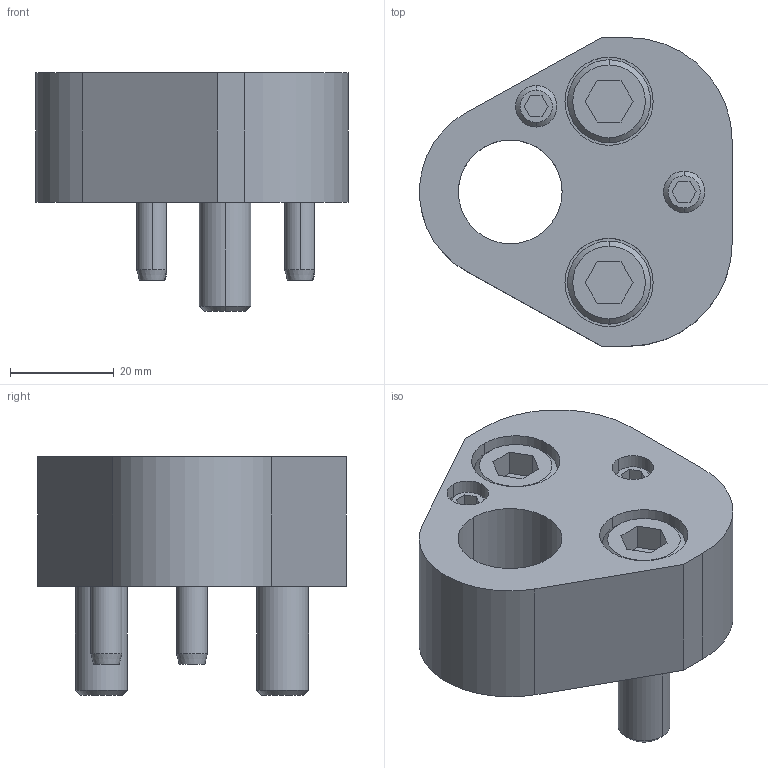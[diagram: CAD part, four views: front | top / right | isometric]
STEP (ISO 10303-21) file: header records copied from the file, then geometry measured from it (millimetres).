
FILE_DESCRIPTION(/* description */ (''),/* implementation_level */ '2;1');
FILE_NAME(/* name */ '3d_25crnar20_03136_r00.stp',/* time_stamp */ '2011-01-10T14:17:52+09:00',/* author */ ('MISUMI'),/* organization */ (''),/* preprocessor_version */ 'ST-DEVELOPER v11',/* originating_system */ 'UGS - NX 5.0',/* authorisation */ '');
FILE_SCHEMA (('CONFIG_CONTROL_DESIGN'));
Length unit declared in the file: millimetre
Products named in the file (1): 3d_25crnar20_03136_r00
Bounding box: 60.24 x 59.5 x 46 mm (x, y, z)
Volume: 60318.6 mm3; surface area: 20170.2 mm2
Topology: 7 solids, 7 shells, 135 faces, 294 edges, 188 vertices
Faces by surface type: plane 60, cylinder 49, cone 26
Entity records: 3836 total; most frequent: DIRECTION 684, CARTESIAN_POINT 672, ORIENTED_EDGE 588, EDGE_CURVE 294, AXIS2_PLACEMENT_3D 260, VERTEX_POINT 188, LINE 164, VECTOR 164
